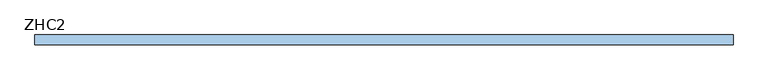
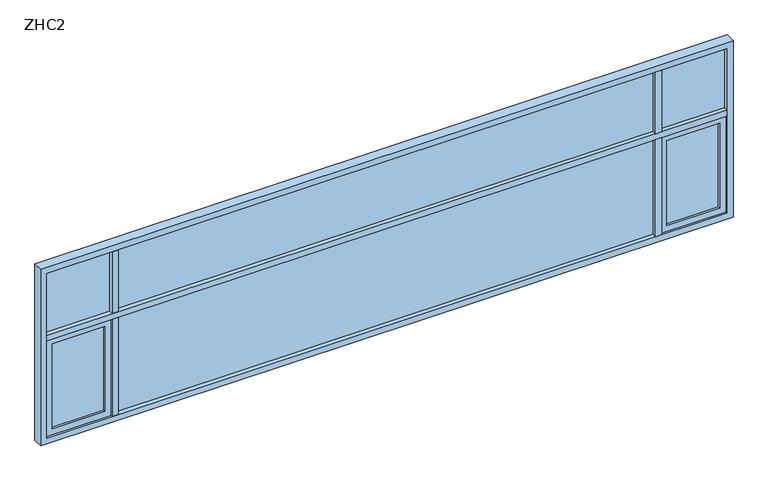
"""IFC4 building model written with IfcOpenShell, lengths in millimetres: window geometry, 组合窗 - 双层三列(平开+固定+平开) - 上部三扇固定 : ZHC2."""

import ifcopenshell
import ifcopenshell.guid

model = None  # the IFC model being written
_history = None  # IfcOwnerHistory: only IFC2X3 demands one
_inside = {}  # id of a spatial element -> (the spatial element, [elements in it])
_under = {}  # id of a project, library or spatial element -> (it, [spatial elements below it])
_declared = {}  # id of a project -> (the project, [libraries it declares])
_typed = {}  # id of a type object -> (the type object, [elements of that type])
_made_of = {}  # id of a material, layer set ... -> (it, [elements and type objects made of it])


def new_model(schema):
    """Start an empty IFC model of exactly this schema.

    Asked for "IFC4X3", IfcOpenShell would pick the latest addendum, in which some entities
    have other attributes; the version numbers below select the first issue.
    IFC2X3 requires an IfcOwnerHistory on every rooted entity: one is made here for all.
    """
    global model, _history
    if schema == "IFC4X3":
        model = ifcopenshell.file(schema_version=(4, 3, 0, 0))
    else:
        model = ifcopenshell.file(schema=schema)
    _inside.clear()
    _under.clear()
    _declared.clear()
    _typed.clear()
    _made_of.clear()
    _history = None
    if model.schema == "IFC2X3":
        org = make("IfcOrganization", Name="unknown")
        user = make(
            "IfcPersonAndOrganization",
            ThePerson=make("IfcPerson", FamilyName="unknown"),
            TheOrganization=org,
        )
        app = make(
            "IfcApplication",
            ApplicationDeveloper=org,
            Version="unknown",
            ApplicationFullName="unknown",
            ApplicationIdentifier="unknown",
        )
        _history = make(
            "IfcOwnerHistory",
            OwningUser=user,
            OwningApplication=app,
            ChangeAction="ADDED",
            CreationDate=0,
        )
    return model


def make(cls, **values):
    """One entity of the class cls with the attributes given. An attribute that is None is left unset."""
    return model.create_entity(
        cls, **{name: value for name, value in values.items() if value is not None}
    )


def rooted(cls, **values):
    """An entity with a GlobalId (a new one), such as an element, a storey or a relation."""
    return make(cls, GlobalId=ifcopenshell.guid.new(), OwnerHistory=_history, **values)


def si_unit(unit_type, name, prefix=None):
    """IfcSIUnit, for example si_unit("LENGTHUNIT", "METRE", prefix="MILLI")."""
    return make("IfcSIUnit", UnitType=unit_type, Prefix=prefix, Name=name)


def assignment(units):
    """IfcUnitAssignment: the units of a project."""
    return None if units is None else make("IfcUnitAssignment", Units=units)


def point(xyz):
    """IfcCartesianPoint."""
    return None if xyz is None else make("IfcCartesianPoint", Coordinates=xyz)


def direction(xyz):
    """IfcDirection."""
    return None if xyz is None else make("IfcDirection", DirectionRatios=xyz)


def frame(location, z_axis=None, x_axis=None):
    """IfcAxis2Placement3D, a coordinate frame: its origin and axes. An axis left out is left unset."""
    return make(
        "IfcAxis2Placement3D",
        Location=point(location),
        Axis=direction(z_axis),
        RefDirection=direction(x_axis),
    )


def origin():
    """The frame at (0, 0, 0) with its axes left unset."""
    return frame((0.0, 0.0, 0.0))


def place(relative_to, where):
    """IfcLocalPlacement: puts the frame where relative to a parent placement (None: the world)."""
    return make(
        "IfcLocalPlacement", PlacementRelTo=relative_to, RelativePlacement=where
    )


def context(
    kind, dimensions, precision=None, world=None, true_north=None, identifier=None
):
    """IfcGeometricRepresentationContext, for example the 3D "Model" context."""
    return make(
        "IfcGeometricRepresentationContext",
        ContextIdentifier=identifier,
        ContextType=kind,
        CoordinateSpaceDimension=dimensions,
        Precision=precision,
        WorldCoordinateSystem=world,
        TrueNorth=true_north,
    )


def project(units=None, contexts=None):
    """IfcProject with its units and contexts."""
    return rooted(
        "IfcProject",
        Name="project",
        RepresentationContexts=contexts,
        UnitsInContext=assignment(units),
    )


def spatial(cls, under=None, at=None, **own):
    """A site, building, storey or space (cls), placed at a placement, below another one or the project."""
    s = rooted(cls, ObjectPlacement=at, **own)
    if under is not None:
        _under.setdefault(under.id(), (under, []))[1].append(s)
    return s


def polyline(points):
    """IfcPolyline through the points."""
    return make("IfcPolyline", Points=[point(p) for p in points])


def outline(outer, holes=None, kind="AREA"):
    """IfcArbitraryClosedProfileDef: a profile drawn as a closed curve; with holes, ...WithVoids."""
    if holes is None:
        return make("IfcArbitraryClosedProfileDef", ProfileType=kind, OuterCurve=outer)
    return make(
        "IfcArbitraryProfileDefWithVoids",
        ProfileType=kind,
        OuterCurve=outer,
        InnerCurves=holes,
    )


def extrude(swept, where, along, depth):
    """IfcExtrudedAreaSolid: the profile swept, set in the frame where, extruded along a direction by depth."""
    return make(
        "IfcExtrudedAreaSolid",
        SweptArea=swept,
        Position=where,
        ExtrudedDirection=direction(along),
        Depth=depth,
    )


def shape(context_of_items, identifier, shape_type, items):
    """IfcShapeRepresentation: the items that make up one representation, for example the "Body"."""
    return make(
        "IfcShapeRepresentation",
        ContextOfItems=context_of_items,
        RepresentationIdentifier=identifier,
        RepresentationType=shape_type,
        Items=items,
    )


def source(mapping_origin, context_of_items, identifier, shape_type, items):
    """IfcRepresentationMap: a shape defined once, which mapped items show again and again."""
    return make(
        "IfcRepresentationMap",
        MappingOrigin=mapping_origin,
        MappedRepresentation=shape(context_of_items, identifier, shape_type, items),
    )


def transform(
    local_origin,
    x_axis=None,
    y_axis=None,
    z_axis=None,
    scale=None,
    scale2=None,
    scale3=None,
    uniform=True,
):
    """IfcCartesianTransformationOperator3D, or its non-uniform kind. x_axis, y_axis, z_axis: its Axis1, 2, 3."""
    if uniform:
        return make(
            "IfcCartesianTransformationOperator3D",
            Axis1=direction(x_axis),
            Axis2=direction(y_axis),
            LocalOrigin=point(local_origin),
            Scale=scale,
            Axis3=direction(z_axis),
        )
    return make(
        "IfcCartesianTransformationOperator3DnonUniform",
        Axis1=direction(x_axis),
        Axis2=direction(y_axis),
        LocalOrigin=point(local_origin),
        Scale=scale,
        Axis3=direction(z_axis),
        Scale2=scale2,
        Scale3=scale3,
    )


def mapped(mapping_source, mapping_target):
    """IfcMappedItem: shows the shape of a source again, moved by a transform."""
    return make(
        "IfcMappedItem", MappingSource=mapping_source, MappingTarget=mapping_target
    )


def made_of(thing, what):
    """Note that an element or type object is made of a material, layer set ...; save() writes the relation."""
    if what is not None:
        _made_of.setdefault(what.id(), (what, []))[1].append(thing)
    return thing


def element(
    cls,
    number,
    at=None,
    inside=None,
    cuts=None,
    type_object=None,
    material=None,
    context=None,
    identifier="Body",
    shape_type=None,
    held_by="IfcProductDefinitionShape",
    body=None,
    shapes=None,
    **own,
):
    """One element of the class cls, such as IfcWall. Its Tag is "e" and its number.

    at: its placement. inside: the storey or other place that contains it. cuts: it is an
    opening in that element (IfcRelVoidsElement). A single representation is given by context,
    identifier, shape_type and body (its items); several are given by shapes. held_by: the class
    of the entity that holds the representations. save() writes the other relations.
    """
    e = rooted(cls, Tag="e%d" % number, ObjectPlacement=at, **own)
    if body is not None:
        shapes = [shape(context, identifier, shape_type, body)]
    if shapes is not None:
        e.Representation = make(held_by, Representations=shapes)
    if inside is not None:
        _inside.setdefault(inside.id(), (inside, []))[1].append(e)
    if cuts is not None:
        rooted(
            "IfcRelVoidsElement", RelatingBuildingElement=cuts, RelatedOpeningElement=e
        )
    if type_object is not None:
        _typed.setdefault(type_object.id(), (type_object, []))[1].append(e)
    return made_of(e, material)


def aggregate(whole, parts):
    """IfcRelAggregates: a whole, such as a stair, and the parts it consists of."""
    return rooted("IfcRelAggregates", RelatingObject=whole, RelatedObjects=parts)


def save(model, path):
    """Write the relations noted so far, then the file.

    IfcRelAggregates (storeys below a building ...), IfcRelContainedInSpatialStructure (elements
    in a storey), IfcRelDefinesByType, IfcRelAssociatesMaterial and IfcRelDeclares: one each for
    every whole, place, type object, material and project.
    """
    for whole, parts in _under.values():
        aggregate(whole, parts)
    for where, things in _inside.values():
        rooted(
            "IfcRelContainedInSpatialStructure",
            RelatedElements=things,
            RelatingStructure=where,
        )
    for kind, things in _typed.values():
        rooted("IfcRelDefinesByType", RelatedObjects=things, RelatingType=kind)
    for what, things in _made_of.values():
        rooted("IfcRelAssociatesMaterial", RelatedObjects=things, RelatingMaterial=what)
    for by, libraries in _declared.values():
        rooted("IfcRelDeclares", RelatingContext=by, RelatedDefinitions=libraries)
    model.write(path)


def zhc2_039f3e8a(model_context):
    return source(origin(), model_context, "Body", "SweptSolid", [
        extrude(outline(polyline([(-2257.5, 10.0), (-2682.5, 10.0), (-2682.5, 20.0), (-2257.5, 20.0), (-2257.5, 10.0)])), frame((0.0, 0.0, 1000.0), z_axis=(0.0, 0.0, 1.0), x_axis=(1.0, 0.0, 0.0)), (0.0, 0.0, 1.0), 725.0),
        extrude(outline(polyline([(1775.0, -2207.5), (1775.0, -2732.5), (950.0, -2732.5), (950.0, -2207.5), (1775.0, -2207.5)]), holes=[polyline([(1000.0, -2257.5), (1000.0, -2682.5), (1725.0, -2682.5), (1725.0, -2257.5), (1000.0, -2257.5)])]), frame((0.0, -10.0, 0.0), z_axis=(0.0, 1.0, 0.0), x_axis=(0.0, 0.0, 1.0)), (0.0, 0.0, 1.0), 50.0),
        extrude(outline(polyline([(2157.5, 10.0), (-2157.5, 10.0), (-2157.5, 20.0), (2157.5, 20.0), (2157.5, 10.0)])), frame((0.0, 0.0, 950.0), z_axis=(0.0, 0.0, 1.0), x_axis=(1.0, 0.0, 0.0)), (0.0, 0.0, 1.0), 825.0),
        extrude(outline(polyline([(2157.5, 10.0), (-2157.5, 10.0), (-2157.5, 20.0), (2157.5, 20.0), (2157.5, 10.0)])), frame((0.0, 0.0, 1825.0), z_axis=(0.0, 0.0, 1.0), x_axis=(1.0, 0.0, 0.0)), (0.0, 0.0, 1.0), 525.0),
        extrude(outline(polyline([(-2207.5, 10.0), (-2732.5, 10.0), (-2732.5, 20.0), (-2207.5, 20.0), (-2207.5, 10.0)])), frame((0.0, 0.0, 1825.0), z_axis=(0.0, 0.0, 1.0), x_axis=(1.0, 0.0, 0.0)), (0.0, 0.0, 1.0), 525.0),
        extrude(outline(polyline([(2682.5, 10.0), (2257.5, 10.0), (2257.5, 20.0), (2682.5, 20.0), (2682.5, 10.0)])), frame((0.0, 0.0, 1000.0), z_axis=(0.0, 0.0, 1.0), x_axis=(1.0, 0.0, 0.0)), (0.0, 0.0, 1.0), 725.0),
        extrude(outline(polyline([(1775.0, 2732.5), (1775.0, 2207.5), (950.0, 2207.5), (950.0, 2732.5), (1775.0, 2732.5)]), holes=[polyline([(1000.0, 2682.5), (1000.0, 2257.5), (1725.0, 2257.5), (1725.0, 2682.5), (1000.0, 2682.5)])]), frame((0.0, -10.0, 0.0), z_axis=(0.0, 1.0, 0.0), x_axis=(0.0, 0.0, 1.0)), (0.0, 0.0, 1.0), 50.0),
        extrude(outline(polyline([(2732.5, 10.0), (2207.5, 10.0), (2207.5, 20.0), (2732.5, 20.0), (2732.5, 10.0)])), frame((0.0, 0.0, 1825.0), z_axis=(0.0, 0.0, 1.0), x_axis=(1.0, 0.0, 0.0)), (0.0, 0.0, 1.0), 525.0),
        extrude(outline(polyline([(2157.5, 55.0), (2207.5, 55.0), (2207.5, -25.0), (2157.5, -25.0), (2157.5, 55.0)])), frame((0.0, 0.0, 1825.0), z_axis=(0.0, 0.0, 1.0), x_axis=(1.0, 0.0, 0.0)), (0.0, 0.0, 1.0), 525.0),
        extrude(outline(polyline([(-2207.5, 55.0), (-2157.5, 55.0), (-2157.5, -25.0), (-2207.5, -25.0), (-2207.5, 55.0)])), frame((0.0, 0.0, 1825.0), z_axis=(0.0, 0.0, 1.0), x_axis=(1.0, 0.0, 0.0)), (0.0, 0.0, 1.0), 525.0),
        extrude(outline(polyline([(2157.5, 55.0), (2207.5, 55.0), (2207.5, -25.0), (2157.5, -25.0), (2157.5, 55.0)])), frame((0.0, 0.0, 950.0), z_axis=(0.0, 0.0, 1.0), x_axis=(1.0, 0.0, 0.0)), (0.0, 0.0, 1.0), 825.0),
        extrude(outline(polyline([(-2207.5, 55.0), (-2157.5, 55.0), (-2157.5, -25.0), (-2207.5, -25.0), (-2207.5, 55.0)])), frame((0.0, 0.0, 950.0), z_axis=(0.0, 0.0, 1.0), x_axis=(1.0, 0.0, 0.0)), (0.0, 0.0, 1.0), 825.0),
        extrude(outline(polyline([(-2732.5, 55.0), (2732.5, 55.0), (2732.5, -25.0), (-2732.5, -25.0), (-2732.5, 55.0)])), frame((0.0, 0.0, 1775.0), z_axis=(0.0, 0.0, 1.0), x_axis=(1.0, 0.0, 0.0)), (0.0, 0.0, 1.0), 50.0),
        extrude(outline(polyline([(2400.0, -2782.5), (900.0, -2782.5), (900.0, 2782.5), (2400.0, 2782.5), (2400.0, -2782.5)]), holes=[polyline([(2350.0, 2732.5), (950.0, 2732.5), (950.0, -2732.5), (2350.0, -2732.5), (2350.0, 2732.5)])]), frame((0.0, -25.0, 0.0), z_axis=(0.0, 1.0, 0.0), x_axis=(0.0, 0.0, 1.0)), (0.0, 0.0, 1.0), 80.0),
    ])


if __name__ == "__main__":
    model = new_model("IFC4")
    model_context = context("Model", 3, world=origin())
    ifc_project = project(units=[si_unit("LENGTHUNIT", "METRE", prefix="MILLI")], contexts=[model_context])
    site = spatial("IfcSite", under=ifc_project)
    building = spatial("IfcBuilding", under=site)
    placement = place(None, origin())
    zhc2_shape = zhc2_039f3e8a(model_context)
    element("IfcWindow", 1, ObjectType="组合窗 - 双层三列(平开+固定+平开) - 上部三扇固定 : ZHC2", at=placement, inside=building, context=model_context, shape_type="MappedRepresentation", body=[
        mapped(zhc2_shape, transform((0.0, 0.0, 0.0), x_axis=(1.0, 0.0, 0.0), y_axis=(0.0, 1.0, 0.0), z_axis=(0.0, 0.0, 1.0))),
    ])
    save(model, "model.ifc")
